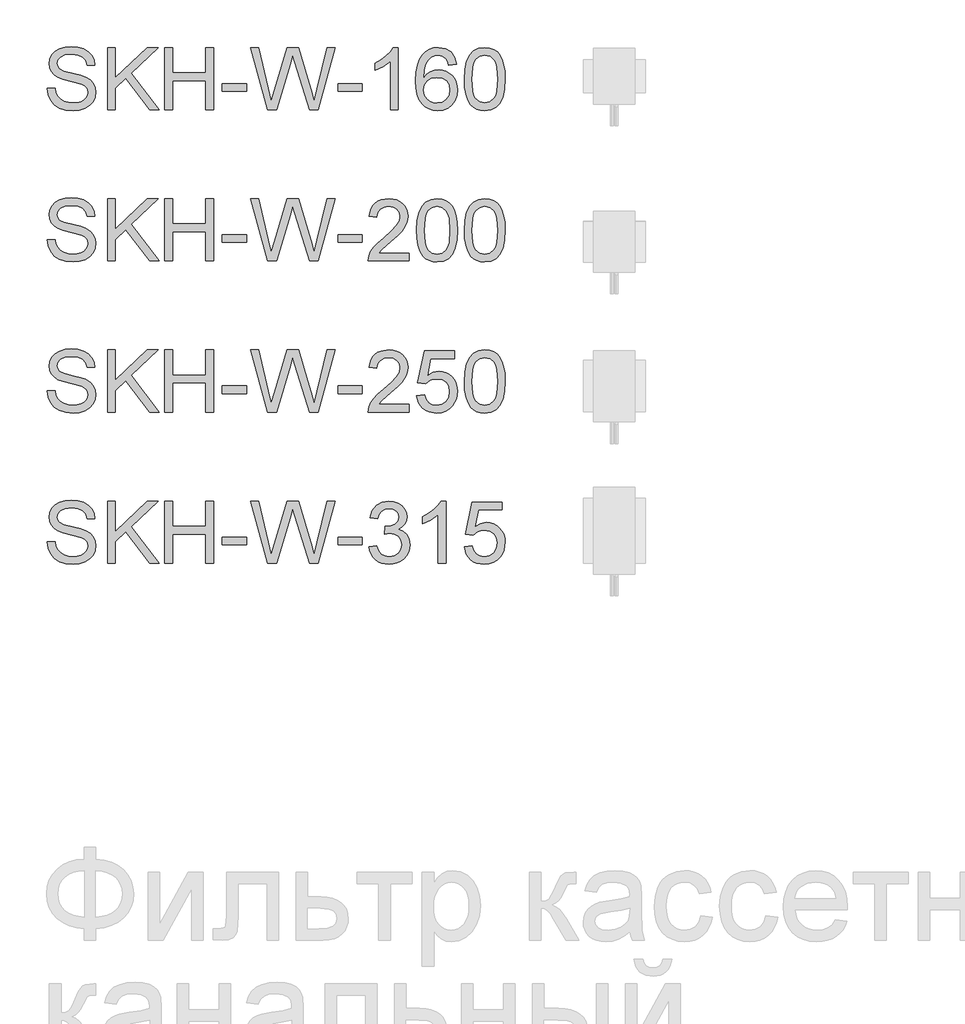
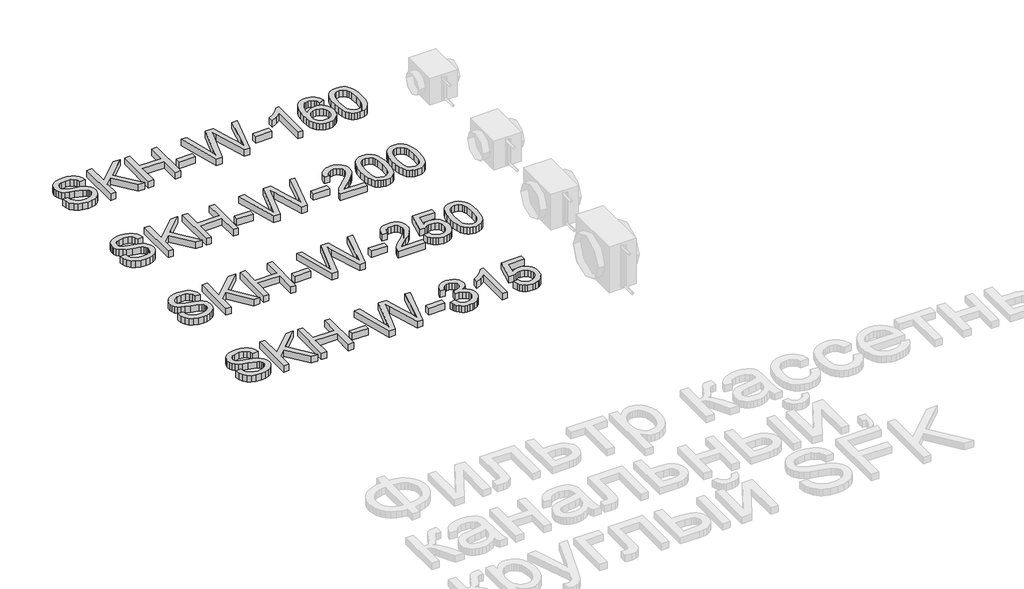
# One storey, part 19 of 31: 1 proxy.
"""IFC4 building model written with IfcOpenShell, lengths in millimetres."""

from ifc_helpers import new_model, si_unit, origin, origin_with_axes, place, context, project, spatial, polyline, outline, extrude, element, save

model = new_model("IFC4")

# Units and contexts
model_context = context("Model", 3, world=origin())
ifc_project = project(units=[si_unit("LENGTHUNIT", "METRE", prefix="MILLI")], contexts=[model_context])

# Site, building, storey
site = spatial("IfcSite", under=ifc_project)
building = spatial("IfcBuilding", under=site)
storey = spatial("IfcBuildingStorey", under=building, Name="Этаж 01", Elevation=0.0)

# Proxy
placement = place(None, origin())
element("IfcBuildingElementProxy", 1, Name="300 мм Arial", ObjectType="300 мм Arial", at=placement, inside=storey, context=model_context, shape_type="SweptSolid", body=[
    extrude(outline(polyline([(10401.3366379, -4158.3827282), (10439.0077542, -4158.3827282), (10443.3303676, -4179.2876225), (10451.14786, -4196.0906327), (10463.3431481, -4209.426355), (10480.7991488, -4219.9293859), (10502.1363045, -4226.7443999), (10525.9750578, -4229.0160712), (10546.9627257, -4227.2962229), (10565.3384313, -4222.1366779), (10580.2284551, -4213.9696976), (10590.7590772, -4203.2275434), (10597.0222681, -4190.8942995), (10599.1099985, -4177.9540503), (10597.5465, -4165.3448949), (10592.8560046, -4154.4463908), (10583.3278609, -4145.1481734), (10567.2514177, -4137.339878), (10512.4002122, -4122.955692), (10476.3937619, -4113.4367454), (10453.355152, -4104.3776513), (10434.6023673, -4091.7041165), (10421.3126302, -4076.3450432), (10413.3939703, -4058.6315252), (10410.7544169, -4038.8946561), (10414.0193696, -4016.8309335), (10423.8142278, -3996.2571329), (10439.8814739, -3978.8195263), (10461.9635907, -3966.1643857), (10488.4694884, -3958.4664549), (10517.8080775, -3955.900478), (10549.5930819, -3958.5860166), (10577.4049608, -3966.6426323), (10600.2504327, -3979.9047782), (10617.1362162, -3998.2069075), (10627.8231882, -4020.4085859), (10632.0722252, -4045.3693792), (10594.4011089, -4045.3693792), (10587.4849274, -4022.8917893), (10573.0639532, -4006.6681933), (10550.531181, -3996.8457441), (10519.2796055, -3993.5715943), (10487.292266, -3996.8089559), (10465.348105, -4006.5210405), (10452.6561762, -4020.8132561), (10448.4255332, -4037.7910101), (10451.4237715, -4052.2671666), (10460.4184863, -4063.9106318), (10481.6820656, -4074.3216923), (10521.9283559, -4084.9534819), (10563.4622331, -4095.0518427), (10588.5885734, -4103.8626165), (10610.0636849, -4117.5294326), (10625.0456791, -4134.3968221), (10633.8472559, -4154.2808439), (10636.7811148, -4176.9975571), (10633.4057975, -4200.2201081), (10623.2798456, -4222.0631015), (10606.8171263, -4240.8618715), (10584.4315069, -4254.9517519), (10557.5117419, -4263.7533286), (10527.4465858, -4266.6871875), (10490.5388246, -4263.5234024), (10460.1609689, -4254.0320469), (10435.9635307, -4238.1763329), (10417.597022, -4215.9194722), (10405.8064041, -4188.8065692), (10401.3366379, -4158.3827282)])), origin_with_axes(), (0.0, 0.0, 1.0), 50.0),
    extrude(outline(polyline([(10693.2877892, -4261.978298), (10693.2877892, -3960.6093675), (10730.9589055, -3960.6093675), (10730.9589055, -4108.1300476), (10885.4693435, -3960.6093675), (10938.1500452, -3960.6093675), (10808.4348537, -4084.5120235), (10942.8589348, -4261.978298), (10896.800109, -4261.978298), (10781.7266209, -4109.9694576), (10730.9589055, -4158.3827282), (10730.9589055, -4261.978298), (10693.2877892, -4261.978298)])), origin_with_axes(), (0.0, 0.0, 1.0), 50.0),
    extrude(outline(polyline([(10971.112272, -4261.978298), (10971.112272, -3960.6093675), (11008.7833883, -3960.6093675), (11008.7833883, -4083.0404955), (11168.8856326, -4083.0404955), (11168.8856326, -3960.6093675), (11206.5567489, -3960.6093675), (11206.5567489, -4261.978298), (11168.8856326, -4261.978298), (11168.8856326, -4120.7116118), (11008.7833883, -4120.7116118), (11008.7833883, -4261.978298), (10971.112272, -4261.978298)])), origin_with_axes(), (0.0, 0.0, 1.0), 50.0),
    extrude(outline(polyline([(11248.9367547, -4172.5093968), (11248.9367547, -4134.8382805), (11366.6589932, -4134.8382805), (11366.6589932, -4172.5093968), (11248.9367547, -4172.5093968)])), origin_with_axes(), (0.0, 0.0, 1.0), 50.0),
    extrude(outline(polyline([(11467.6793891, -4261.978298), (11385.4945514, -3960.6093675), (11424.34289, -3960.6093675), (11472.0203966, -4158.6770337), (11486.7356764, -4219.8190213), (11502.4810258, -4165.7403681), (11562.2250618, -3960.6093675), (11618.2167015, -3960.6093675), (11661.6267769, -4109.30727), (11680.2232118, -4164.4895693), (11693.9268161, -4219.8190213), (11708.2006375, -4160.4428673), (11756.3196025, -3960.6093675), (11795.1679412, -3960.6093675), (11712.9095271, -4261.978298), (11672.6632368, -4261.978298), (11600.4112129, -4029.476877), (11590.3312463, -3997.0296851), (11579.0004808, -4036.098753), (11513.1496037, -4261.978298), (11467.6793891, -4261.978298)])), origin_with_axes(), (0.0, 0.0, 1.0), 50.0),
    extrude(outline(polyline([(11809.2946098, -4172.5093968), (11809.2946098, -4134.8382805), (11927.0168483, -4134.8382805), (11927.0168483, -4172.5093968), (11809.2946098, -4172.5093968)])), origin_with_axes(), (0.0, 0.0, 1.0), 50.0),
    extrude(outline(polyline([(12101.2457612, -4261.978298), (12063.5746449, -4261.978298), (12063.5746449, -4027.1224323), (12027.8900913, -4052.5430781), (11988.2324123, -4071.5625773), (11988.2324123, -4035.9516002), (12017.8193217, -4019.8567629), (12043.4514997, -4000.708505), (12063.6574183, -3980.3462366), (12076.9655495, -3960.6093675), (12101.2457612, -3960.6093675), (12101.2457612, -4261.978298)])), origin_with_axes(), (0.0, 0.0, 1.0), 50.0),
    extrude(outline(polyline([(12383.7791335, -4040.6604897), (12346.1080172, -4045.3693792), (12340.0379642, -4026.699368), (12331.8341958, -4013.9522568), (12314.7460771, -4002.1984271), (12294.089503, -3998.2804839), (12276.5783201, -4000.5613522), (12260.0972067, -4007.4039573), (12245.9429469, -4021.8157345), (12234.3822552, -4041.6537711), (12226.5739599, -4069.7139703), (12223.6768892, -4108.7922352), (12238.7876421, -4091.1614906), (12256.8966333, -4078.7362762), (12276.9921873, -4071.3694392), (12298.0626286, -4068.9138269), (12316.1624228, -4070.5922885), (12332.8642653, -4075.6276733), (12348.1681563, -4084.0199814), (12362.0740958, -4095.7692126), (12373.6301889, -4110.1763912), (12381.8845412, -4126.5425415), (12386.8371526, -4144.8676634), (12388.488023, -4165.1517569), (12385.3794201, -4192.1267042), (12376.0536116, -4217.1334828), (12361.2831495, -4238.3418798), (12341.840586, -4253.9216823), (12318.608838, -4263.4958112), (12292.4708223, -4266.6871875), (12270.0139257, -4264.5718661), (12249.7321315, -4258.2259016), (12231.6254395, -4247.6492943), (12215.6938499, -4232.842044), (12202.7053162, -4213.1787513), (12193.4277921, -4188.034017), (12187.8612777, -4157.4078409), (12186.0057729, -4121.300223), (12188.065912, -4080.819408), (12194.2463296, -4046.2706901), (12204.5470254, -4017.6540694), (12218.9679996, -3994.9695459), (12234.5983859, -3979.9369679), (12252.7211727, -3969.1994121), (12273.33636, -3962.7568787), (12296.4439478, -3960.6093675), (12329.4981451, -3965.9252624), (12355.9672546, -3981.8729469), (12374.5085072, -4007.2016222), (12383.7791335, -4040.6604897)]), holes=[polyline([(12223.6768892, -4164.5631457), (12225.85659, -4181.2557912), (12232.3956925, -4197.1942786), (12242.5492355, -4210.897883), (12255.5722582, -4220.8858791), (12271.2900164, -4226.9835232), (12289.5277663, -4229.0160712), (12314.3873921, -4224.8038224), (12333.9311231, -4212.1670758), (12346.5954608, -4192.3014481), (12350.8169067, -4166.4025556), (12346.6506431, -4141.5429298), (12334.1518523, -4122.58781), (12314.2770275, -4110.5856599), (12287.9826619, -4106.5849432), (12263.1598243, -4110.5856599), (12242.4020827, -4122.58781), (12228.3581876, -4141.0830773), (12223.6768892, -4164.5631457)])]), origin_with_axes(), (0.0, 0.0, 1.0), 50.0),
    extrude(outline(polyline([(12421.4502498, -4113.7218539), (12424.2185618, -4065.4833273), (12432.5234978, -4027.0120677), (12446.2822845, -3997.7194638), (12465.4121482, -3977.0169045), (12490.0510448, -3964.7112518), (12520.3369301, -3960.6093675), (12543.550284, -3963.0373887), (12564.3356167, -3970.3214522), (12581.718041, -3982.1764495), (12594.7226695, -3998.3172721), (12604.5451188, -4018.6059641), (12612.3810053, -4042.9045699), (12617.5129591, -4073.7606722), (12619.2236104, -4113.7218539), (12616.4828895, -4161.6844691), (12608.2607269, -4200.0637582), (12594.5847138, -4229.3839532), (12575.4824412, -4250.1692859), (12550.7883622, -4262.5577121), (12520.3369301, -4266.6871875), (12499.5883856, -4264.8937628), (12481.1942858, -4259.5134886), (12465.1546308, -4250.546365), (12451.4694206, -4237.9923919), (12438.3360334, -4215.2986713), (12428.9550425, -4187.0223415), (12423.326448, -4153.1634023), (12421.4502498, -4113.7218539)]), holes=[polyline([(12459.1213661, -4113.6482775), (12463.53595, -4172.9048699), (12469.05418, -4193.1728686), (12476.7797019, -4207.2006689), (12496.4981768, -4223.5622206), (12520.3369301, -4229.0160712), (12544.1756834, -4223.5438265), (12563.8941583, -4207.1270925), (12571.6196802, -4193.0762996), (12577.1379101, -4172.8128994), (12581.5524941, -4113.6482775), (12577.2850629, -4055.7252574), (12571.950774, -4035.5239373), (12564.4827695, -4021.162744), (12544.8010828, -4004.0010489), (12519.8954717, -3998.2804839), (12496.3142358, -4003.3204672), (12477.368313, -4018.4404172), (12469.3852737, -4034.075402), (12463.6831028, -4055.1550403), (12459.1213661, -4113.6482775)])]), origin_with_axes(), (0.0, 0.0, 1.0), 50.0),
    extrude(outline(polyline([(10401.3366379, -4890.2316352), (10439.0077542, -4890.2316352), (10443.3303676, -4911.1365296), (10451.14786, -4927.9395397), (10463.3431481, -4941.2752621), (10480.7991488, -4951.778293), (10502.1363045, -4958.593307), (10525.9750578, -4960.8649783), (10546.9627257, -4959.14513), (10565.3384313, -4953.985585), (10580.2284551, -4945.8186047), (10590.7590772, -4935.0764504), (10597.0222681, -4922.7432065), (10599.1099985, -4909.8029574), (10597.5465, -4897.193802), (10592.8560046, -4886.2952979), (10583.3278609, -4876.9970804), (10567.2514177, -4869.1887851), (10512.4002122, -4854.8045991), (10476.3937619, -4845.2856525), (10453.355152, -4836.2265583), (10434.6023673, -4823.5530236), (10421.3126302, -4808.1939503), (10413.3939703, -4790.4804322), (10410.7544169, -4770.7435632), (10414.0193696, -4748.6798405), (10423.8142278, -4728.1060399), (10439.8814739, -4710.6684334), (10461.9635907, -4698.0132927), (10488.4694884, -4690.315362), (10517.8080775, -4687.7493851), (10549.5930819, -4690.4349236), (10577.4049608, -4698.4915393), (10600.2504327, -4711.7536853), (10617.1362162, -4730.0558145), (10627.8231882, -4752.2574929), (10632.0722252, -4777.2182863), (10594.4011089, -4777.2182863), (10587.4849274, -4754.7406964), (10573.0639532, -4738.5171004), (10550.531181, -4728.6946511), (10519.2796055, -4725.4205014), (10487.292266, -4728.6578629), (10465.348105, -4738.3699476), (10452.6561762, -4752.6621631), (10448.4255332, -4769.6399172), (10451.4237715, -4784.1160737), (10460.4184863, -4795.7595389), (10481.6820656, -4806.1705993), (10521.9283559, -4816.802389), (10563.4622331, -4826.9007498), (10588.5885734, -4835.7115235), (10610.0636849, -4849.3783397), (10625.0456791, -4866.2457291), (10633.8472559, -4886.129751), (10636.7811148, -4908.8464642), (10633.4057975, -4932.0690151), (10623.2798456, -4953.9120086), (10606.8171263, -4972.7107785), (10584.4315069, -4986.800659), (10557.5117419, -4995.6022357), (10527.4465858, -4998.5360946), (10490.5388246, -4995.3723094), (10460.1609689, -4985.880954), (10435.9635307, -4970.02524), (10417.597022, -4947.7683793), (10405.8064041, -4920.6554762), (10401.3366379, -4890.2316352)])), origin_with_axes(), (0.0, 0.0, 1.0), 50.0),
    extrude(outline(polyline([(10693.2877892, -4993.8272051), (10693.2877892, -4692.4582746), (10730.9589055, -4692.4582746), (10730.9589055, -4839.9789547), (10885.4693435, -4692.4582746), (10938.1500452, -4692.4582746), (10808.4348537, -4816.3609306), (10942.8589348, -4993.8272051), (10896.800109, -4993.8272051), (10781.7266209, -4841.8183647), (10730.9589055, -4890.2316352), (10730.9589055, -4993.8272051), (10693.2877892, -4993.8272051)])), origin_with_axes(), (0.0, 0.0, 1.0), 50.0),
    extrude(outline(polyline([(10971.112272, -4993.8272051), (10971.112272, -4692.4582746), (11008.7833883, -4692.4582746), (11008.7833883, -4814.8894026), (11168.8856326, -4814.8894026), (11168.8856326, -4692.4582746), (11206.5567489, -4692.4582746), (11206.5567489, -4993.8272051), (11168.8856326, -4993.8272051), (11168.8856326, -4852.5605189), (11008.7833883, -4852.5605189), (11008.7833883, -4993.8272051), (10971.112272, -4993.8272051)])), origin_with_axes(), (0.0, 0.0, 1.0), 50.0),
    extrude(outline(polyline([(11248.9367547, -4904.3583038), (11248.9367547, -4866.6871875), (11366.6589932, -4866.6871875), (11366.6589932, -4904.3583038), (11248.9367547, -4904.3583038)])), origin_with_axes(), (0.0, 0.0, 1.0), 50.0),
    extrude(outline(polyline([(11467.6793891, -4993.8272051), (11385.4945514, -4692.4582746), (11424.34289, -4692.4582746), (11472.0203966, -4890.5259408), (11486.7356764, -4951.6679284), (11502.4810258, -4897.5892751), (11562.2250618, -4692.4582746), (11618.2167015, -4692.4582746), (11661.6267769, -4841.1561771), (11680.2232118, -4896.3384763), (11693.9268161, -4951.6679284), (11708.2006375, -4892.2917744), (11756.3196025, -4692.4582746), (11795.1679412, -4692.4582746), (11712.9095271, -4993.8272051), (11672.6632368, -4993.8272051), (11600.4112129, -4761.3257841), (11590.3312463, -4728.8785921), (11579.0004808, -4767.94766), (11513.1496037, -4993.8272051), (11467.6793891, -4993.8272051)])), origin_with_axes(), (0.0, 0.0, 1.0), 50.0),
    extrude(outline(polyline([(11809.2946098, -4904.3583038), (11809.2946098, -4866.6871875), (11927.0168483, -4866.6871875), (11927.0168483, -4904.3583038), (11809.2946098, -4904.3583038)])), origin_with_axes(), (0.0, 0.0, 1.0), 50.0),
    extrude(outline(polyline([(12153.0435461, -4956.1560888), (12153.0435461, -4993.8272051), (11955.2701855, -4993.8272051), (11959.3168874, -4967.8547362), (11968.6059078, -4947.5568471), (11982.1991475, -4927.8659633), (12001.8624402, -4907.2553746), (12029.3616193, -4884.1983705), (12070.0125798, -4848.0907527), (12094.4031561, -4821.4377021), (12106.5984442, -4799.8062408), (12110.6635403, -4778.7633907), (12106.8283705, -4759.9002414), (12095.3228611, -4744.2192713), (12077.6369341, -4733.651861), (12055.2605118, -4730.1293909), (12031.7620493, -4733.5690876), (12013.5059053, -4743.8881775), (12001.7244844, -4760.2773204), (11997.6501913, -4781.9271758), (11959.979075, -4777.2182863), (11969.1117456, -4740.7795747), (11977.6581042, -4726.2436373), (11988.8578116, -4714.1633123), (12002.4533506, -4704.6673583), (12018.1872037, -4697.884534), (12056.0698522, -4692.4582746), (12076.2596759, -4693.9665908), (12094.2284121, -4698.4915393), (12109.9760608, -4706.0331202), (12123.5026219, -4716.5913335), (12134.3666371, -4729.3844299), (12142.1266479, -4743.6306601), (12146.7826544, -4759.3300243), (12148.3346566, -4776.4825223), (12146.6607935, -4794.499543), (12141.6392042, -4812.203864), (12132.7272629, -4830.2116877), (12119.3823435, -4849.1392164), (12098.1095672, -4871.7363679), (12065.4140548, -4900.7530603), (12022.0775558, -4936.9894368), (12005.0814076, -4956.1560888), (12153.0435461, -4956.1560888)])), origin_with_axes(), (0.0, 0.0, 1.0), 50.0),
    extrude(outline(polyline([(12190.7146624, -4845.570761), (12193.4829744, -4797.3322344), (12201.7879105, -4758.8609747), (12215.5466971, -4729.5683709), (12234.6765608, -4708.8658116), (12259.3154575, -4696.5601589), (12289.6013427, -4692.4582746), (12312.8146966, -4694.8862958), (12333.6000293, -4702.1703593), (12350.9824536, -4714.0253566), (12363.9870821, -4730.1661791), (12373.8095314, -4750.4548712), (12381.6454179, -4774.7534769), (12386.7773717, -4805.6095793), (12388.488023, -4845.570761), (12385.7473021, -4893.5333761), (12377.5251396, -4931.9126653), (12363.8491264, -4961.2328603), (12344.7468538, -4982.018193), (12320.0527749, -4994.4066192), (12289.6013427, -4998.5360946), (12268.8527982, -4996.7426699), (12250.4586984, -4991.3623957), (12234.4190434, -4982.3952721), (12220.7338332, -4969.841299), (12207.600446, -4947.1475784), (12198.2194551, -4918.8712485), (12192.5908606, -4885.0123094), (12190.7146624, -4845.570761)]), holes=[polyline([(12228.3857787, -4845.4971846), (12232.8003627, -4904.753777), (12238.3185926, -4925.0217757), (12246.0441145, -4939.049576), (12265.7625894, -4955.4111277), (12289.6013427, -4960.8649783), (12313.440096, -4955.3927336), (12333.1585709, -4938.9759996), (12340.8840928, -4924.9252066), (12346.4023228, -4904.6618065), (12350.8169067, -4845.4971846), (12346.5494756, -4787.5741645), (12341.2151866, -4767.3728444), (12333.7471821, -4753.011651), (12314.0654954, -4735.8499559), (12289.1598843, -4730.1293909), (12265.5786484, -4735.1693743), (12246.6327257, -4750.2893243), (12238.6496864, -4765.9243091), (12232.9475154, -4787.0039474), (12228.3857787, -4845.4971846)])]), origin_with_axes(), (0.0, 0.0, 1.0), 50.0),
    extrude(outline(polyline([(12421.4502498, -4845.570761), (12424.2185618, -4797.3322344), (12432.5234978, -4758.8609747), (12446.2822845, -4729.5683709), (12465.4121482, -4708.8658116), (12490.0510448, -4696.5601589), (12520.3369301, -4692.4582746), (12543.550284, -4694.8862958), (12564.3356167, -4702.1703593), (12581.718041, -4714.0253566), (12594.7226695, -4730.1661791), (12604.5451188, -4750.4548712), (12612.3810053, -4774.7534769), (12617.5129591, -4805.6095793), (12619.2236104, -4845.570761), (12616.4828895, -4893.5333761), (12608.2607269, -4931.9126653), (12594.5847138, -4961.2328603), (12575.4824412, -4982.018193), (12550.7883622, -4994.4066192), (12520.3369301, -4998.5360946), (12499.5883856, -4996.7426699), (12481.1942858, -4991.3623957), (12465.1546308, -4982.3952721), (12451.4694206, -4969.841299), (12438.3360334, -4947.1475784), (12428.9550425, -4918.8712485), (12423.326448, -4885.0123094), (12421.4502498, -4845.570761)]), holes=[polyline([(12459.1213661, -4845.4971846), (12463.53595, -4904.753777), (12469.05418, -4925.0217757), (12476.7797019, -4939.049576), (12496.4981768, -4955.4111277), (12520.3369301, -4960.8649783), (12544.1756834, -4955.3927336), (12563.8941583, -4938.9759996), (12571.6196802, -4924.9252066), (12577.1379101, -4904.6618065), (12581.5524941, -4845.4971846), (12577.2850629, -4787.5741645), (12571.950774, -4767.3728444), (12564.4827695, -4753.011651), (12544.8010828, -4735.8499559), (12519.8954717, -4730.1293909), (12496.3142358, -4735.1693743), (12477.368313, -4750.2893243), (12469.3852737, -4765.9243091), (12463.6831028, -4787.0039474), (12459.1213661, -4845.4971846)])]), origin_with_axes(), (0.0, 0.0, 1.0), 50.0),
    extrude(outline(polyline([(10401.3366379, -5622.0805423), (10439.0077542, -5622.0805423), (10443.3303676, -5642.9854367), (10451.14786, -5659.7884468), (10463.3431481, -5673.1241691), (10480.7991488, -5683.6272001), (10502.1363045, -5690.442214), (10525.9750578, -5692.7138854), (10546.9627257, -5690.994037), (10565.3384313, -5685.8344921), (10580.2284551, -5677.6675118), (10590.7590772, -5666.9253575), (10597.0222681, -5654.5921136), (10599.1099985, -5641.6518644), (10597.5465, -5629.0427091), (10592.8560046, -5618.1442049), (10583.3278609, -5608.8459875), (10567.2514177, -5601.0376922), (10512.4002122, -5586.6535062), (10476.3937619, -5577.1345595), (10453.355152, -5568.0754654), (10434.6023673, -5555.4019307), (10421.3126302, -5540.0428574), (10413.3939703, -5522.3293393), (10410.7544169, -5502.5924703), (10414.0193696, -5480.5287476), (10423.8142278, -5459.954947), (10439.8814739, -5442.5173404), (10461.9635907, -5429.8621998), (10488.4694884, -5422.1642691), (10517.8080775, -5419.5982921), (10549.5930819, -5422.2838307), (10577.4049608, -5430.3404464), (10600.2504327, -5443.6025923), (10617.1362162, -5461.9047216), (10627.8231882, -5484.1064), (10632.0722252, -5509.0671934), (10594.4011089, -5509.0671934), (10587.4849274, -5486.5896035), (10573.0639532, -5470.3660075), (10550.531181, -5460.5435582), (10519.2796055, -5457.2694085), (10487.292266, -5460.50677), (10465.348105, -5470.2188547), (10452.6561762, -5484.5110702), (10448.4255332, -5501.4888243), (10451.4237715, -5515.9649808), (10460.4184863, -5527.6084459), (10481.6820656, -5538.0195064), (10521.9283559, -5548.6512961), (10563.4622331, -5558.7496568), (10588.5885734, -5567.5604306), (10610.0636849, -5581.2272467), (10625.0456791, -5598.0946362), (10633.8472559, -5617.978658), (10636.7811148, -5640.6953713), (10633.4057975, -5663.9179222), (10623.2798456, -5685.7609157), (10606.8171263, -5704.5596856), (10584.4315069, -5718.649566), (10557.5117419, -5727.4511428), (10527.4465858, -5730.3850017), (10490.5388246, -5727.2212165), (10460.1609689, -5717.729861), (10435.9635307, -5701.874147), (10417.597022, -5679.6172863), (10405.8064041, -5652.5043833), (10401.3366379, -5622.0805423)])), origin_with_axes(), (0.0, 0.0, 1.0), 50.0),
    extrude(outline(polyline([(10693.2877892, -5725.6761121), (10693.2877892, -5424.3071817), (10730.9589055, -5424.3071817), (10730.9589055, -5571.8278618), (10885.4693435, -5424.3071817), (10938.1500452, -5424.3071817), (10808.4348537, -5548.2098377), (10942.8589348, -5725.6761121), (10896.800109, -5725.6761121), (10781.7266209, -5573.6672717), (10730.9589055, -5622.0805423), (10730.9589055, -5725.6761121), (10693.2877892, -5725.6761121)])), origin_with_axes(), (0.0, 0.0, 1.0), 50.0),
    extrude(outline(polyline([(10971.112272, -5725.6761121), (10971.112272, -5424.3071817), (11008.7833883, -5424.3071817), (11008.7833883, -5546.7383097), (11168.8856326, -5546.7383097), (11168.8856326, -5424.3071817), (11206.5567489, -5424.3071817), (11206.5567489, -5725.6761121), (11168.8856326, -5725.6761121), (11168.8856326, -5584.409426), (11008.7833883, -5584.409426), (11008.7833883, -5725.6761121), (10971.112272, -5725.6761121)])), origin_with_axes(), (0.0, 0.0, 1.0), 50.0),
    extrude(outline(polyline([(11248.9367547, -5636.2072109), (11248.9367547, -5598.5360946), (11366.6589932, -5598.5360946), (11366.6589932, -5636.2072109), (11248.9367547, -5636.2072109)])), origin_with_axes(), (0.0, 0.0, 1.0), 50.0),
    extrude(outline(polyline([(11467.6793891, -5725.6761121), (11385.4945514, -5424.3071817), (11424.34289, -5424.3071817), (11472.0203966, -5622.3748479), (11486.7356764, -5683.5168355), (11502.4810258, -5629.4381822), (11562.2250618, -5424.3071817), (11618.2167015, -5424.3071817), (11661.6267769, -5573.0050841), (11680.2232118, -5628.1873834), (11693.9268161, -5683.5168355), (11708.2006375, -5624.1406815), (11756.3196025, -5424.3071817), (11795.1679412, -5424.3071817), (11712.9095271, -5725.6761121), (11672.6632368, -5725.6761121), (11600.4112129, -5493.1746912), (11590.3312463, -5460.7274992), (11579.0004808, -5499.7965671), (11513.1496037, -5725.6761121), (11467.6793891, -5725.6761121)])), origin_with_axes(), (0.0, 0.0, 1.0), 50.0),
    extrude(outline(polyline([(11809.2946098, -5636.2072109), (11809.2946098, -5598.5360946), (11927.0168483, -5598.5360946), (11927.0168483, -5636.2072109), (11809.2946098, -5636.2072109)])), origin_with_axes(), (0.0, 0.0, 1.0), 50.0),
    extrude(outline(polyline([(12153.0435461, -5688.0049958), (12153.0435461, -5725.6761121), (11955.2701855, -5725.6761121), (11959.3168874, -5699.7036433), (11968.6059078, -5679.4057542), (11982.1991475, -5659.7148704), (12001.8624402, -5639.1042816), (12029.3616193, -5616.0472776), (12070.0125798, -5579.9396597), (12094.4031561, -5553.2866092), (12106.5984442, -5531.6551479), (12110.6635403, -5510.6122978), (12106.8283705, -5491.7491485), (12095.3228611, -5476.0681784), (12077.6369341, -5465.5007681), (12055.2605118, -5461.978298), (12031.7620493, -5465.4179946), (12013.5059053, -5475.7370846), (12001.7244844, -5492.1262275), (11997.6501913, -5513.7760829), (11959.979075, -5509.0671934), (11969.1117456, -5472.6284818), (11977.6581042, -5458.0925444), (11988.8578116, -5446.0122194), (12002.4533506, -5436.5162654), (12018.1872037, -5429.7334411), (12056.0698522, -5424.3071817), (12076.2596759, -5425.8154979), (12094.2284121, -5430.3404464), (12109.9760608, -5437.8820273), (12123.5026219, -5448.4402406), (12134.3666371, -5461.233337), (12142.1266479, -5475.4795672), (12146.7826544, -5491.1789314), (12148.3346566, -5508.3314294), (12146.6607935, -5526.3484501), (12141.6392042, -5544.0527711), (12132.7272629, -5562.0605948), (12119.3823435, -5580.9881234), (12098.1095672, -5603.585275), (12065.4140548, -5632.6019674), (12022.0775558, -5668.8383439), (12005.0814076, -5688.0049958), (12153.0435461, -5688.0049958)])), origin_with_axes(), (0.0, 0.0, 1.0), 50.0),
    extrude(outline(polyline([(12190.7146624, -5645.62499), (12228.3857787, -5640.9161004), (12235.3019602, -5663.5316461), (12247.3684897, -5679.7276509), (12264.5301847, -5689.4673268), (12286.7318631, -5692.7138854), (12313.7344016, -5688.1981339), (12333.9679113, -5674.6508794), (12346.6046579, -5653.6356204), (12350.8169067, -5626.7158554), (12346.8713723, -5601.368786), (12335.0347691, -5581.9814048), (12315.2151266, -5569.6757521), (12287.3204743, -5565.5738678), (12269.0459362, -5567.2109427), (12254.247883, -5572.1221673), (12233.0946682, -5589.1183155), (12195.4235519, -5584.409426), (12228.3857787, -5429.0160712), (12374.3613544, -5429.0160712), (12374.3613544, -5466.6871875), (12258.8464079, -5466.6871875), (12242.7331765, -5549.6813656), (12269.6437445, -5533.3474051), (12297.8418994, -5527.9027515), (12316.1877146, -5529.5904102), (12333.0390093, -5534.6533861), (12348.3957833, -5543.0916794), (12362.2580368, -5554.90529), (12373.7336557, -5569.3722494), (12381.9305264, -5585.7705894), (12386.8486489, -5604.1003098), (12388.488023, -5624.3614107), (12382.583517, -5662.032527), (12375.2028845, -5678.8263401), (12364.8699989, -5694.2589897), (12349.21662, -5710.06412), (12330.951279, -5721.3534987), (12310.0739757, -5728.1271259), (12286.5847103, -5730.3850017), (12249.5849787, -5724.5816632), (12233.9063079, -5717.3274901), (12220.1084338, -5707.1716478), (12208.6282163, -5694.619974), (12199.9025152, -5680.1783064), (12190.7146624, -5645.62499)])), origin_with_axes(), (0.0, 0.0, 1.0), 50.0),
    extrude(outline(polyline([(12421.4502498, -5577.4196681), (12424.2185618, -5529.1811415), (12432.5234978, -5490.7098818), (12446.2822845, -5461.417278), (12465.4121482, -5440.7147187), (12490.0510448, -5428.4090659), (12520.3369301, -5424.3071817), (12543.550284, -5426.7352029), (12564.3356167, -5434.0192664), (12581.718041, -5445.8742637), (12594.7226695, -5462.0150862), (12604.5451188, -5482.3037782), (12612.3810053, -5506.602384), (12617.5129591, -5537.4584864), (12619.2236104, -5577.4196681), (12616.4828895, -5625.3822832), (12608.2607269, -5663.7615723), (12594.5847138, -5693.0817674), (12575.4824412, -5713.8671001), (12550.7883622, -5726.2555263), (12520.3369301, -5730.3850017), (12499.5883856, -5728.5915769), (12481.1942858, -5723.2113028), (12465.1546308, -5714.2441791), (12451.4694206, -5701.6902061), (12438.3360334, -5678.9964855), (12428.9550425, -5650.7201556), (12423.326448, -5616.8612165), (12421.4502498, -5577.4196681)]), holes=[polyline([(12459.1213661, -5577.3460917), (12463.53595, -5636.6026841), (12469.05418, -5656.8706827), (12476.7797019, -5670.8984831), (12496.4981768, -5687.2600348), (12520.3369301, -5692.7138854), (12544.1756834, -5687.2416407), (12563.8941583, -5670.8249067), (12571.6196802, -5656.7741137), (12577.1379101, -5636.5107136), (12581.5524941, -5577.3460917), (12577.2850629, -5519.4230715), (12571.950774, -5499.2217515), (12564.4827695, -5484.8605581), (12544.8010828, -5467.698863), (12519.8954717, -5461.978298), (12496.3142358, -5467.0182813), (12477.368313, -5482.1382313), (12469.3852737, -5497.7732161), (12463.6831028, -5518.8528544), (12459.1213661, -5577.3460917)])]), origin_with_axes(), (0.0, 0.0, 1.0), 50.0),
    extrude(outline(polyline([(10401.3366379, -6353.9294494), (10439.0077542, -6353.9294494), (10443.3303676, -6374.8343437), (10451.14786, -6391.6373539), (10463.3431481, -6404.9730762), (10480.7991488, -6415.4761072), (10502.1363045, -6422.2911211), (10525.9750578, -6424.5627924), (10546.9627257, -6422.8429441), (10565.3384313, -6417.6833991), (10580.2284551, -6409.5164188), (10590.7590772, -6398.7742646), (10597.0222681, -6386.4410207), (10599.1099985, -6373.5007715), (10597.5465, -6360.8916161), (10592.8560046, -6349.993112), (10583.3278609, -6340.6948946), (10567.2514177, -6332.8865992), (10512.4002122, -6318.5024132), (10476.3937619, -6308.9834666), (10453.355152, -6299.9243725), (10434.6023673, -6287.2508377), (10421.3126302, -6271.8917644), (10413.3939703, -6254.1782464), (10410.7544169, -6234.4413773), (10414.0193696, -6212.3776547), (10423.8142278, -6191.8038541), (10439.8814739, -6174.3662475), (10461.9635907, -6161.7111069), (10488.4694884, -6154.0131761), (10517.8080775, -6151.4471992), (10549.5930819, -6154.1327378), (10577.4049608, -6162.1893535), (10600.2504327, -6175.4514994), (10617.1362162, -6193.7536287), (10627.8231882, -6215.9553071), (10632.0722252, -6240.9161004), (10594.4011089, -6240.9161004), (10587.4849274, -6218.4385105), (10573.0639532, -6202.2149146), (10550.531181, -6192.3924653), (10519.2796055, -6189.1183155), (10487.292266, -6192.3556771), (10465.348105, -6202.0677618), (10452.6561762, -6216.3599773), (10448.4255332, -6233.3377313), (10451.4237715, -6247.8138879), (10460.4184863, -6259.457353), (10481.6820656, -6269.8684135), (10521.9283559, -6280.5002031), (10563.4622331, -6290.5985639), (10588.5885734, -6299.4093377), (10610.0636849, -6313.0761538), (10625.0456791, -6329.9435433), (10633.8472559, -6349.8275651), (10636.7811148, -6372.5442783), (10633.4057975, -6395.7668293), (10623.2798456, -6417.6098227), (10606.8171263, -6436.4085927), (10584.4315069, -6450.4984731), (10557.5117419, -6459.3000498), (10527.4465858, -6462.2339087), (10490.5388246, -6459.0701236), (10460.1609689, -6449.5787681), (10435.9635307, -6433.7230541), (10417.597022, -6411.4661934), (10405.8064041, -6384.3532904), (10401.3366379, -6353.9294494)])), origin_with_axes(), (0.0, 0.0, 1.0), 50.0),
    extrude(outline(polyline([(10693.2877892, -6457.5250192), (10693.2877892, -6156.1560888), (10730.9589055, -6156.1560888), (10730.9589055, -6303.6767688), (10885.4693435, -6156.1560888), (10938.1500452, -6156.1560888), (10808.4348537, -6280.0587447), (10942.8589348, -6457.5250192), (10896.800109, -6457.5250192), (10781.7266209, -6305.5161788), (10730.9589055, -6353.9294494), (10730.9589055, -6457.5250192), (10693.2877892, -6457.5250192)])), origin_with_axes(), (0.0, 0.0, 1.0), 50.0),
    extrude(outline(polyline([(10971.112272, -6457.5250192), (10971.112272, -6156.1560888), (11008.7833883, -6156.1560888), (11008.7833883, -6278.5872168), (11168.8856326, -6278.5872168), (11168.8856326, -6156.1560888), (11206.5567489, -6156.1560888), (11206.5567489, -6457.5250192), (11168.8856326, -6457.5250192), (11168.8856326, -6316.2583331), (11008.7833883, -6316.2583331), (11008.7833883, -6457.5250192), (10971.112272, -6457.5250192)])), origin_with_axes(), (0.0, 0.0, 1.0), 50.0),
    extrude(outline(polyline([(11248.9367547, -6368.056118), (11248.9367547, -6330.3850017), (11366.6589932, -6330.3850017), (11366.6589932, -6368.056118), (11248.9367547, -6368.056118)])), origin_with_axes(), (0.0, 0.0, 1.0), 50.0),
    extrude(outline(polyline([(11467.6793891, -6457.5250192), (11385.4945514, -6156.1560888), (11424.34289, -6156.1560888), (11472.0203966, -6354.223755), (11486.7356764, -6415.3657426), (11502.4810258, -6361.2870893), (11562.2250618, -6156.1560888), (11618.2167015, -6156.1560888), (11661.6267769, -6304.8539912), (11680.2232118, -6360.0362905), (11693.9268161, -6415.3657426), (11708.2006375, -6355.9895885), (11756.3196025, -6156.1560888), (11795.1679412, -6156.1560888), (11712.9095271, -6457.5250192), (11672.6632368, -6457.5250192), (11600.4112129, -6225.0235983), (11590.3312463, -6192.5764063), (11579.0004808, -6231.6454742), (11513.1496037, -6457.5250192), (11467.6793891, -6457.5250192)])), origin_with_axes(), (0.0, 0.0, 1.0), 50.0),
    extrude(outline(polyline([(11809.2946098, -6368.056118), (11809.2946098, -6330.3850017), (11927.0168483, -6330.3850017), (11927.0168483, -6368.056118), (11809.2946098, -6368.056118)])), origin_with_axes(), (0.0, 0.0, 1.0), 50.0),
    extrude(outline(polyline([(11959.979075, -6377.4738971), (11997.6501913, -6372.7650075), (12006.0838861, -6396.4382139), (12018.4355241, -6412.4226866), (12035.3121106, -6421.527766), (12057.320651, -6424.5627924), (12083.145967, -6420.3873318), (12103.0851712, -6407.8609499), (12115.8322823, -6389.1725445), (12120.0813193, -6366.5110136), (12115.8690705, -6344.9991139), (12103.2323239, -6327.5523103), (12084.1024602, -6315.9916186), (12060.4108597, -6312.1380547), (12033.9969325, -6316.2583331), (12038.1907872, -6278.5872168), (12044.2240519, -6279.0286751), (12066.7936123, -6276.3247425), (12086.9719398, -6268.2129445), (12101.208973, -6254.4909461), (12105.9546507, -6234.9564121), (12102.5149541, -6218.6868309), (12092.1958641, -6205.4890643), (12076.4505147, -6196.7426699), (12056.7320398, -6193.8272051), (12036.9767766, -6196.770261), (12020.826757, -6205.5994289), (12009.0361391, -6220.3147087), (12002.3590809, -6240.9161004), (11964.6879646, -6236.2072109), (11975.7796067, -6202.3804615), (11995.5164758, -6177.1253625), (12022.5190142, -6161.3984072), (12055.4076646, -6156.1560888), (12079.090068, -6158.7404598), (12100.841091, -6166.4935728), (12119.1800084, -6178.7256492), (12132.6260954, -6194.7469101), (12140.8758491, -6213.2053892), (12143.625767, -6232.7491202), (12141.0138049, -6250.9592789), (12133.1779184, -6267.4771805), (12120.2284721, -6281.5486668), (12102.2758308, -6292.4195798), (12125.8570667, -6301.9477234), (12143.3314614, -6318.1713194), (12154.1471921, -6340.2074509), (12157.7524356, -6367.1732012), (12155.9498139, -6386.2846708), (12150.5419485, -6403.8878243), (12141.5288396, -6419.9826616), (12128.9104872, -6434.5691827), (12113.5376183, -6446.6725004), (12096.2609601, -6455.3177272), (12077.0805126, -6460.5048634), (12055.9962758, -6462.2339087), (12036.9399884, -6460.7577822), (12019.5759582, -6456.3294027), (12003.9041853, -6448.9487702), (11989.9246694, -6438.6158847), (11978.2030294, -6425.9377514), (11969.3048836, -6411.5213757), (11963.2302322, -6395.3667576), (11959.979075, -6377.4738971)])), origin_with_axes(), (0.0, 0.0, 1.0), 50.0),
    extrude(outline(polyline([(12331.9813485, -6457.5250192), (12294.3102322, -6457.5250192), (12294.3102322, -6222.6691535), (12258.6256787, -6248.0897994), (12218.9679996, -6267.1092985), (12218.9679996, -6231.4983214), (12248.5549091, -6215.4034841), (12274.1870871, -6196.2552262), (12294.3930057, -6175.8929578), (12307.7011369, -6156.1560888), (12331.9813485, -6156.1560888), (12331.9813485, -6457.5250192)])), origin_with_axes(), (0.0, 0.0, 1.0), 50.0),
    extrude(outline(polyline([(12421.4502498, -6377.4738971), (12459.1213661, -6372.7650075), (12466.0375476, -6395.3805532), (12478.104077, -6411.576558), (12495.2657721, -6421.3162338), (12517.4674505, -6424.5627924), (12544.469989, -6420.0470409), (12564.7034987, -6406.4997865), (12577.3402452, -6385.4845275), (12581.5524941, -6358.5647625), (12577.6069597, -6333.217693), (12565.7703565, -6313.8303119), (12545.950714, -6301.5246592), (12518.0560617, -6297.4227749), (12499.7815236, -6299.0598498), (12484.9834703, -6303.9710744), (12463.8302556, -6320.9672226), (12426.1591393, -6316.2583331), (12459.1213661, -6160.8649783), (12605.0969418, -6160.8649783), (12605.0969418, -6198.5360946), (12489.5819953, -6198.5360946), (12473.4687639, -6281.5302727), (12500.3793318, -6265.1963121), (12528.5774868, -6259.7516586), (12546.923302, -6261.4393173), (12563.7745967, -6266.5022932), (12579.1313707, -6274.9405865), (12592.9936241, -6286.754197), (12604.4692431, -6301.2211565), (12612.6661138, -6317.6194964), (12617.5842362, -6335.9492169), (12619.2236104, -6356.2103177), (12613.3191044, -6393.881434), (12605.9384718, -6410.6752471), (12595.6055863, -6426.1078968), (12579.9522074, -6441.913027), (12561.6868663, -6453.2024058), (12540.8095631, -6459.976033), (12517.3202977, -6462.2339087), (12480.3205661, -6456.4305703), (12464.6418953, -6449.1763972), (12450.8440212, -6439.0205549), (12439.3638037, -6426.468881), (12430.6381026, -6412.0272135), (12421.4502498, -6377.4738971)])), origin_with_axes(), (0.0, 0.0, 1.0), 50.0),
])

save(model, "model.ifc")
